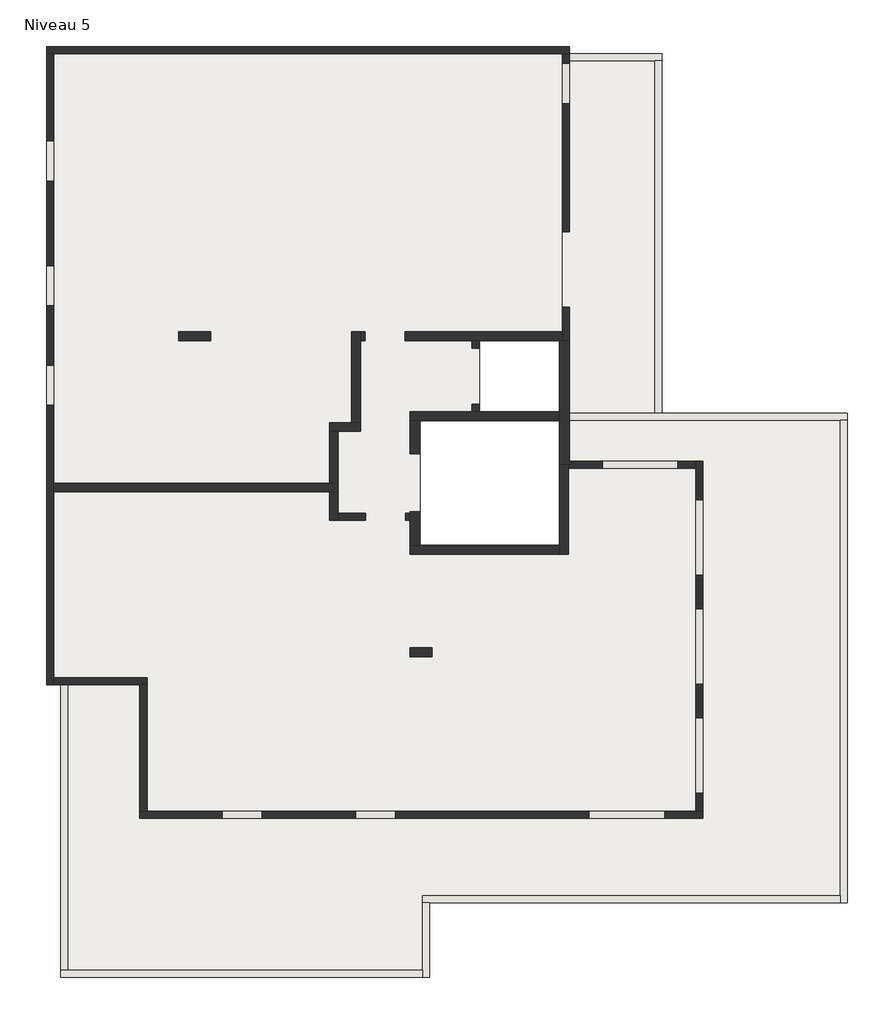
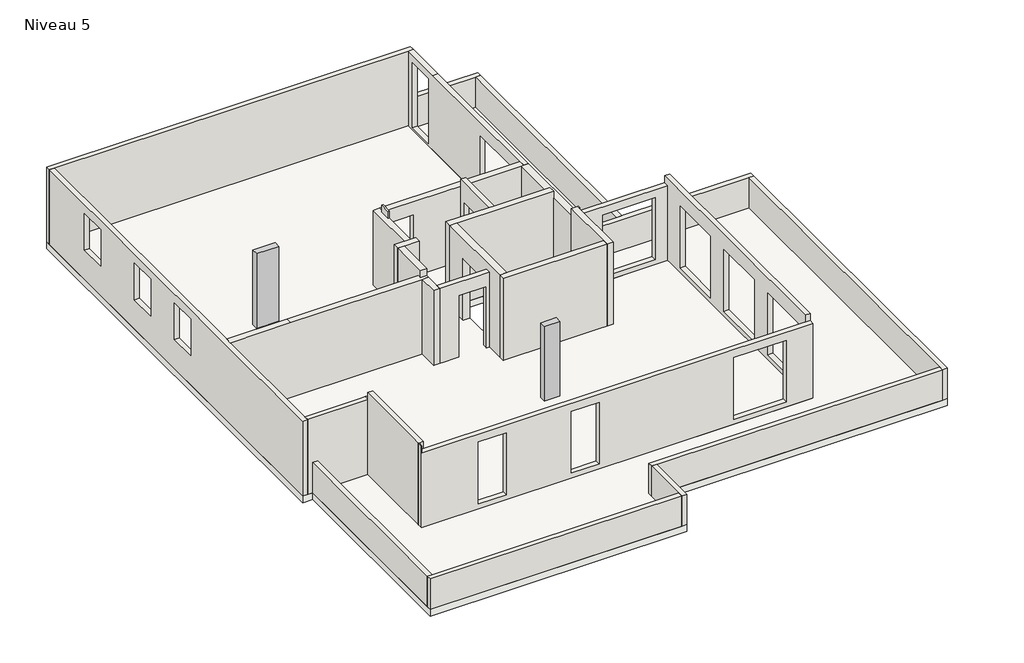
# One storey: 29 walls, 2 columns, 2 slabs.
"""IFC4 building model written with IfcOpenShell, lengths in millimetres."""

from ifc_helpers import new_model, si_unit, frame, origin, place, context, project, spatial, polyline, outline, extrude, faceted_brep, element, save

model = new_model("IFC4")

# Units and contexts
model_context = context("Model", 3, world=origin())
ifc_project = project(units=[si_unit("LENGTHUNIT", "METRE", prefix="MILLI")], contexts=[model_context])

# Site, building, storey
site = spatial("IfcSite", under=ifc_project)
building = spatial("IfcBuilding", under=site)
storey = spatial("IfcBuildingStorey", under=building, Name="Niveau 5", Elevation=14680.0)

# Columns
placement = place(None, origin())
element("IfcColumn", 1, ObjectType="Béton - Rectangulaire - Poteau : 200 x 500", at=placement, inside=storey, context=model_context, shape_type="SweptSolid", body=[
    extrude(outline(polyline([(-2147.6920341, -4024.0968949), (-2647.6920341, -4024.0968949), (-2647.6920341, -3824.0968949), (-2147.6920341, -3824.0968949), (-2147.6920341, -4024.0968949)])), frame((0.0, 0.0, 14680.0), z_axis=(0.0, 0.0, 1.0), x_axis=(1.0, 0.0, 0.0)), (0.0, 0.0, 1.0), 2560.0),
])
element("IfcColumn", 2, ObjectType="Béton - Rectangulaire - Poteau : 200 x 720", at=placement, inside=storey, context=model_context, shape_type="SweptSolid", body=[
    extrude(outline(polyline([(-7127.691895, 3075.9031051), (-7847.691895, 3075.9031051), (-7847.691895, 3275.9031051), (-7127.691895, 3275.9031051), (-7127.691895, 3075.9031051)])), frame((0.0, 0.0, 14680.0), z_axis=(0.0, 0.0, 1.0), x_axis=(1.0, 0.0, 0.0)), (0.0, 0.0, 1.0), 2560.0),
])

# Slabs
element("IfcSlab", 3, ObjectType="Plancher Béton 230 mm", at=placement, inside=storey, context=model_context, shape_type="Brep", body=[
    faceted_brep([(712.3079659, 205.9031051, 14450.0), (3942.3079659, 205.9031051, 14450.0), (3942.3079659, -7654.0969166, 14450.0), (-8717.691895, -7654.0969166, 14450.0), (-8717.691895, -4654.0969166, 14450.0), (-10497.6920341, -4654.0969166, 14450.0), (-10817.691895, -4654.0969166, 14450.0), (-10817.691895, 9685.9030834, 14450.0), (942.3079659, 9685.9030834, 14450.0), (942.3079659, 9525.9030834, 14450.0), (782.3079659, 9525.9030834, 14450.0), (782.3079659, 3175.9031051, 14450.0), (712.3079659, 3175.9031051, 14450.0), (712.3079659, 3075.9031051, 14450.0), (-1087.6920341, 3075.9031051, 14450.0), (-1087.6920341, 1475.9031051, 14450.0), (712.3079659, 1475.9031051, 14450.0), (712.3079659, 1275.9031051, 14450.0), (-2417.6920341, 1275.9031051, 14450.0), (-2417.6920341, -1524.0968949, 14450.0), (712.3079659, -1524.0968949, 14450.0), (3942.3079659, 205.9031051, 14680.0), (712.3079659, 205.9031051, 14680.0), (712.3079659, -1524.0968949, 14680.0), (-2417.6920341, -1524.0968949, 14680.0), (-2417.6920341, 1275.9031051, 14680.0), (712.3079659, 1275.9031051, 14680.0), (712.3079659, 1475.9031051, 14680.0), (-1087.6920341, 1475.9031051, 14680.0), (-1087.6920341, 3075.9031051, 14680.0), (712.3079659, 3075.9031051, 14680.0), (712.3079659, 3175.9031051, 14680.0), (782.3079659, 3175.9031051, 14680.0), (782.3079659, 9525.9030834, 14680.0), (942.3079659, 9525.9030834, 14680.0), (942.3079659, 9685.9030834, 14680.0), (-10817.691895, 9685.9030834, 14680.0), (-10817.691895, 9525.9030834, 14680.0), (-10817.691895, -4654.0969166, 14680.0), (-10657.691895, -4654.0969166, 14680.0), (-10497.6920341, -4654.0969166, 14680.0), (-8717.691895, -4654.0969166, 14680.0), (-8717.691895, -7494.0969166, 14680.0), (-8717.691895, -7654.0969166, 14680.0), (3942.3079659, -7654.0969166, 14680.0), (3942.3079659, -7494.0969166, 14680.0)], [[[0, 1, 2, 3, 4, 5, 6, 7, 8, 9, 10, 11, 12, 13, 14, 15, 16, 17, 18, 19, 20]], [[21, 22, 23, 24, 25, 26, 27, 28, 29, 30, 31, 32, 33, 34, 35, 36, 37, 38, 39, 40, 41, 42, 43, 44, 45]], [[8, 35, 34, 9]], [[0, 22, 21, 1]], [[2, 1, 21, 45, 44]], [[3, 2, 44, 43]], [[4, 3, 43, 42, 41]], [[4, 41, 40, 39, 38, 6, 5]], [[7, 6, 38, 37, 36]], [[8, 7, 36, 35]], [[29, 14, 13, 30]], [[14, 29, 28, 15]], [[15, 28, 27, 16]], [[20, 23, 22, 0]], [[25, 18, 17, 26]], [[18, 25, 24, 19]], [[23, 20, 19, 24]], [[17, 16, 27, 26]], [[12, 31, 30, 13]], [[31, 12, 11, 32]], [[32, 11, 10, 33]], [[33, 10, 9, 34]]]),
])
element("IfcSlab", 4, ObjectType="Plancher Béton 230 mm", at=placement, inside=storey, context=model_context, shape_type="Brep", body=[
    faceted_brep([(-8717.691895, -4654.0969166, 14450.0), (-8717.691895, -7654.0969166, 14450.0), (3942.3079659, -7654.0969166, 14450.0), (3942.3079659, 205.9031051, 14450.0), (712.3079659, 205.9031051, 14450.0), (712.3079659, 1275.9031051, 14450.0), (712.3079659, 1475.9031051, 14450.0), (712.3079659, 3075.9031051, 14450.0), (712.3079659, 3175.9031051, 14450.0), (782.3079659, 3175.9031051, 14450.0), (782.3079659, 9525.9030834, 14450.0), (942.3079659, 9525.9030834, 14450.0), (3022.3079659, 9525.9030834, 14450.0), (3022.3079659, 1445.9030834, 14450.0), (7192.3079659, 1445.9030834, 14450.0), (7192.3079659, -9554.0969166, 14450.0), (-2207.6920341, -9554.0969166, 14450.0), (-2207.6920341, -11234.0969166, 14450.0), (-10497.6920341, -11234.0969166, 14450.0), (-10497.6920341, -4654.0969166, 14450.0), (-8717.691895, -4654.0969166, 14680.0), (-10497.6920341, -4654.0969166, 14680.0), (-10497.6920341, -11074.0969166, 14680.0), (-10497.6920341, -11234.0969166, 14680.0), (-2367.6920341, -11234.0969166, 14680.0), (-2207.6920341, -11234.0969166, 14680.0), (-2207.6920341, -9554.0969166, 14680.0), (7032.3079659, -9554.0969166, 14680.0), (7192.3079659, -9554.0969166, 14680.0), (7192.3079659, 1285.9030834, 14680.0), (7192.3079659, 1445.9030834, 14680.0), (3022.3079659, 1445.9030834, 14680.0), (3022.3079659, 9525.9030834, 14680.0), (942.3079659, 9525.9030834, 14680.0), (782.3079659, 9525.9030834, 14680.0), (782.3079659, 3175.9031051, 14680.0), (712.3079659, 3175.9031051, 14680.0), (712.3079659, 3075.9031051, 14680.0), (712.3079659, 1475.9031051, 14680.0), (712.3079659, 1275.9031051, 14680.0), (712.3079659, 205.9031051, 14680.0), (3942.3079659, 205.9031051, 14680.0), (3942.3079659, -7654.0969166, 14680.0), (-8717.691895, -7654.0969166, 14680.0)], [[[0, 1, 2, 3, 4, 5, 6, 7, 8, 9, 10, 11, 12, 13, 14, 15, 16, 17, 18, 19]], [[20, 21, 22, 23, 24, 25, 26, 27, 28, 29, 30, 31, 32, 33, 34, 35, 36, 37, 38, 39, 40, 41, 42, 43]], [[1, 0, 20, 43]], [[2, 1, 43, 42]], [[3, 2, 42, 41]], [[4, 3, 41, 40]], [[8, 7, 6, 5, 4, 40, 39, 38, 37, 36]], [[9, 8, 36, 35]], [[10, 9, 35, 34]], [[0, 19, 21, 20]], [[12, 11, 10, 34, 33, 32]], [[13, 12, 32, 31]], [[14, 13, 31, 30]], [[15, 14, 30, 29, 28]], [[16, 15, 28, 27, 26]], [[17, 16, 26, 25]], [[18, 17, 25, 24, 23]], [[19, 18, 23, 22, 21]]]),
])

# Walls
element("IfcWall", 5, ObjectType="Béton 160 mm", at=placement, inside=storey, context=model_context, shape_type="Brep", body=[
    faceted_brep([(-10817.691895, 9525.9030834, 14680.0), (-10657.691895, 9525.9030834, 14680.0), (782.3079659, 9525.9030834, 14680.0), (942.3079659, 9525.9030834, 14680.0), (942.3079659, 9525.9030834, 17240.0), (782.3079659, 9525.9030834, 17240.0), (-10657.691895, 9525.9030834, 17240.0), (-10817.691895, 9525.9030834, 17240.0), (-10817.691895, 9685.9030834, 14680.0), (-10817.691895, 9685.9030834, 17240.0), (942.3079659, 9685.9030834, 17240.0), (942.3079659, 9685.9030834, 14680.0)], [[[0, 1, 2, 3, 4, 5, 6, 7]], [[8, 9, 10, 11]], [[3, 2, 1, 0, 8, 11]], [[4, 3, 11, 10]], [[0, 7, 9, 8]], [[7, 6, 5, 4, 10, 9]]]),
])
element("IfcWall", 6, ObjectType="Béton 160 mm", at=placement, inside=storey, context=model_context, shape_type="Brep", body=[
    faceted_brep([(782.3079659, 9525.9030834, 14680.0), (782.3079659, 5525.9030834, 14680.0), (782.3079659, 5525.9030834, 16790.0), (782.3079659, 3825.9030834, 16790.0), (782.3079659, 3825.9030834, 14680.0), (782.3079659, 3275.9031051, 14680.0), (782.3079659, 3075.9031051, 14680.0), (782.3079659, 3075.9031051, 17240.0), (782.3079659, 3275.9031051, 17240.0), (782.3079659, 8145.9030834, 17240.0), (782.3079659, 9525.9030834, 17240.0), (782.3079659, 8405.9030834, 16970.0), (782.3079659, 8405.9030834, 14750.0), (782.3079659, 9305.9030834, 14750.0), (782.3079659, 9305.9030834, 16970.0), (942.3079659, 5525.9030834, 16790.0), (942.3079659, 5525.9030834, 14680.0), (942.3079659, 9365.9030834, 14680.0), (942.3079659, 9525.9030834, 14680.0), (942.3079659, 9525.9030834, 15720.0), (942.3079659, 9525.9030834, 17240.0), (942.3079659, 8145.9030834, 17240.0), (942.3079659, 3275.9031051, 17240.0), (942.3079659, 3075.9031051, 17240.0), (942.3079659, 3075.9031051, 14680.0), (942.3079659, 3825.9030834, 14680.0), (942.3079659, 3825.9030834, 16790.0), (942.3079659, 8405.9030834, 16970.0), (942.3079659, 9305.9030834, 16970.0), (942.3079659, 9305.9030834, 14750.0), (942.3079659, 8405.9030834, 14750.0)], [[[0, 1, 2, 3, 4, 5, 6, 7, 8, 9, 10], [11, 12, 13, 14]], [[15, 16, 17, 18, 19, 20, 21, 22, 23, 24, 25, 26], [27, 28, 29, 30]], [[25, 24, 6, 5, 4]], [[18, 17, 16, 1, 0]], [[7, 6, 24, 23]], [[10, 20, 19, 18, 0]], [[4, 3, 26, 25]], [[2, 1, 16, 15]], [[3, 2, 15, 26]], [[12, 11, 27, 30]], [[13, 12, 30, 29]], [[14, 13, 29, 28]], [[11, 14, 28, 27]], [[9, 8, 7, 23, 22, 21]], [[10, 9, 21, 20]]]),
])
element("IfcWall", 7, ObjectType="Béton 160 mm", at=placement, inside=storey, context=model_context, shape_type="Brep", body=[
    faceted_brep([(-10817.691895, 9525.9030834, 14680.0), (-10817.691895, -4654.0969166, 14680.0), (-10817.691895, -4654.0969166, 17240.0), (-10817.691895, 9525.9030834, 17240.0), (-10817.691895, 7563.9030834, 16930.0), (-10817.691895, 6663.9030834, 16930.0), (-10817.691895, 6663.9030834, 15680.0), (-10817.691895, 7563.9030834, 15680.0), (-10817.691895, 3863.9030834, 16930.0), (-10817.691895, 3863.9030834, 15680.0), (-10817.691895, 4763.9030834, 15680.0), (-10817.691895, 4763.9030834, 16930.0), (-10817.691895, 2524.9030834, 16930.0), (-10817.691895, 1624.9030834, 16930.0), (-10817.691895, 1624.9030834, 15680.0), (-10817.691895, 2524.9030834, 15680.0), (-10657.691895, 9525.9030834, 14680.0), (-10657.691895, 9525.9030834, 17240.0), (-10657.691895, -124.0968949, 17240.0), (-10657.691895, -324.0968949, 17240.0), (-10657.691895, -4494.0969166, 17240.0), (-10657.691895, -4654.0969166, 17240.0), (-10657.691895, -4654.0969166, 14680.0), (-10657.691895, -4494.0969166, 14680.0), (-10657.691895, -324.0968949, 14680.0), (-10657.691895, -124.0968949, 14680.0), (-10657.691895, 7563.9030834, 16930.0), (-10657.691895, 7563.9030834, 15680.0), (-10657.691895, 6663.9030834, 15680.0), (-10657.691895, 6663.9030834, 16930.0), (-10657.691895, 3863.9030834, 16930.0), (-10657.691895, 4763.9030834, 16930.0), (-10657.691895, 4763.9030834, 15680.0), (-10657.691895, 3863.9030834, 15680.0), (-10657.691895, 2524.9030834, 16930.0), (-10657.691895, 2524.9030834, 15680.0), (-10657.691895, 1624.9030834, 15680.0), (-10657.691895, 1624.9030834, 16930.0)], [[[0, 1, 2, 3], [4, 5, 6, 7], [8, 9, 10, 11], [12, 13, 14, 15]], [[16, 17, 18, 19, 20, 21, 22, 23, 24, 25], [26, 27, 28, 29], [30, 31, 32, 33], [34, 35, 36, 37]], [[1, 0, 16, 25, 24, 23, 22]], [[0, 3, 17, 16]], [[2, 1, 22, 21]], [[27, 26, 4, 7]], [[28, 27, 7, 6]], [[29, 28, 6, 5]], [[26, 29, 5, 4]], [[9, 8, 30, 33]], [[10, 9, 33, 32]], [[11, 10, 32, 31]], [[8, 11, 31, 30]], [[35, 34, 12, 15]], [[36, 35, 15, 14]], [[37, 36, 14, 13]], [[34, 37, 13, 12]], [[3, 2, 21, 20, 19, 18, 17]]]),
])
element("IfcWall", 8, ObjectType="Béton 200 mm", at=placement, inside=storey, context=model_context, shape_type="Brep", body=[
    faceted_brep([(-10657.691895, -324.0968949, 14680.0), (-4457.691895, -324.0968949, 14680.0), (-4257.691895, -324.0968949, 14680.0), (-4257.691895, -324.0968949, 17240.0), (-4457.691895, -324.0968949, 17240.0), (-8697.6920341, -324.0968949, 17240.0), (-10657.691895, -324.0968949, 17240.0), (-10657.691895, -124.0968949, 14680.0), (-10657.691895, -124.0968949, 17240.0), (-8697.6920341, -124.0968949, 17240.0), (-4460.0848034, -124.0968949, 17240.0), (-4457.691895, -124.0968949, 17240.0), (-4257.691895, -124.0968949, 17240.0), (-4257.691895, -124.0968949, 14680.0), (-4457.691895, -124.0968949, 14680.0), (-4257.691895, -224.0968949, 17240.0)], [[[0, 1, 2, 3, 4, 5, 6]], [[7, 8, 9, 10, 11, 12, 13, 14]], [[2, 1, 0, 7, 14, 13]], [[0, 6, 8, 7]], [[3, 2, 13, 12, 15]], [[5, 4, 3, 15, 12, 11, 10, 9]], [[6, 5, 9, 8]]]),
])
element("IfcWall", 9, ObjectType="Béton 200 mm", at=placement, inside=storey, context=model_context, shape_type="SweptSolid", body=[
    extrude(outline(polyline([(-124.0968949, 14680.0), (-124.0968949, 17240.0), (-224.0968949, 17240.0), (-224.0968949, 17480.0), (1035.9031051, 17480.0), (1035.9031051, 14680.0), (-124.0968949, 14680.0)])), frame((-4457.691895, 0.0, 0.0), z_axis=(1.0, 0.0, 0.0), x_axis=(0.0, 1.0, 0.0)), (0.0, 0.0, 1.0), 200.0),
])
element("IfcWall", 10, ObjectType="Béton 200 mm", at=placement, inside=storey, context=model_context, shape_type="Brep", body=[
    faceted_brep([(-4457.691895, 1035.9031051, 14680.0), (-4257.691895, 1035.9031051, 14680.0), (-3757.691895, 1035.9031051, 14680.0), (-3757.691895, 1035.9031051, 17480.0), (-4257.691895, 1035.9031051, 17480.0), (-4457.691895, 1035.9031051, 17480.0), (-4457.691895, 1235.9031051, 14680.0), (-4457.691895, 1235.9031051, 17480.0), (-3757.691895, 1235.9031051, 17480.0), (-3757.691895, 1235.9031051, 17240.0), (-3757.691895, 1235.9031051, 14680.0), (-3957.691895, 1235.9031051, 14680.0)], [[[0, 1, 2, 3, 4, 5]], [[6, 7, 8, 9, 10, 11]], [[2, 1, 0, 6, 11, 10]], [[5, 4, 3, 8, 7]], [[0, 5, 7, 6]], [[3, 2, 10, 9, 8]]]),
])
element("IfcWall", 11, ObjectType="Béton 200 mm", at=placement, inside=storey, context=model_context, shape_type="Brep", body=[
    faceted_brep([(-3757.691895, 1235.9031051, 14680.0), (-3757.691895, 3075.9031051, 14680.0), (-3757.691895, 3275.9031051, 14680.0), (-3757.691895, 3275.9031051, 17240.0), (-3757.691895, 3075.9030834, 17240.0), (-3757.691895, 3075.9030834, 17480.0), (-3757.691895, 2725.9030834, 17480.0), (-3757.691895, 2725.9030834, 17240.0), (-3757.691895, 1235.9031051, 17240.0), (-3957.691895, 3275.9031051, 14680.0), (-3957.691895, 1235.9031051, 14680.0), (-3957.691895, 1235.9031051, 17240.0), (-3957.691895, 3275.9031051, 17240.0), (-3807.6828669, 3075.9030834, 17480.0), (-3807.6828669, 2725.9030834, 17480.0), (-3807.6828669, 2725.9030834, 17240.0), (-3807.6828669, 3075.9030834, 17240.0)], [[[0, 1, 2, 3, 4, 5, 6, 7, 8]], [[9, 10, 11, 12]], [[2, 1, 0, 10, 9]], [[6, 5, 13, 14]], [[10, 0, 8, 11]], [[2, 9, 12, 3]], [[15, 16, 4, 3, 12, 11, 8, 7]], [[16, 13, 5, 4]], [[16, 15, 14, 13]], [[14, 15, 7, 6]]]),
])
element("IfcWall", 12, ObjectType="Béton 200 mm", at=placement, inside=storey, context=model_context, shape_type="Brep", body=[
    faceted_brep([(-4457.691895, -324.0968949, 14680.0), (-4457.691895, -964.0968949, 14680.0), (-4457.691895, -964.0968949, 17240.0), (-4457.691895, -324.0968949, 17240.0), (-4257.691895, -964.0968949, 14680.0), (-4257.691895, -804.0968949, 14680.0), (-4257.691895, -324.0968949, 14680.0), (-4257.691895, -324.0968949, 17240.0), (-4257.691895, -804.0968949, 17240.0), (-4257.691895, -964.0968949, 17240.0)], [[[0, 1, 2, 3]], [[4, 5, 6, 7, 8, 9]], [[1, 0, 6, 5, 4]], [[1, 4, 9, 2]], [[6, 0, 3, 7]], [[3, 2, 9, 8, 7]]]),
])
element("IfcWall", 13, ObjectType="Béton 200 mm", at=placement, inside=storey, context=model_context, shape_type="Brep", body=[
    faceted_brep([(-2757.691895, 3075.9031051, 16790.0), (-2757.691895, 3075.9031051, 14680.0), (-1247.6920341, 3075.9031051, 14680.0), (-1087.6920341, 3075.9031051, 14680.0), (712.3079659, 3075.9031051, 14680.0), (782.3079659, 3075.9031051, 14680.0), (782.3079659, 3075.9031051, 17240.0), (712.3079659, 3075.9031051, 17240.0), (-1087.6920341, 3075.9031051, 17240.0), (-3507.6828669, 3075.9031051, 17240.0), (-3757.691895, 3075.9031051, 17240.0), (-3757.691895, 3075.9031051, 14680.0), (-3657.691895, 3075.9031051, 14680.0), (-3657.691895, 3075.9031051, 16790.0), (-2757.691895, 3275.9031051, 14680.0), (-2757.691895, 3275.9031051, 16790.0), (-3657.691895, 3275.9031051, 16790.0), (-3657.691895, 3275.9031051, 14680.0), (-3757.691895, 3275.9031051, 14680.0), (-3757.691895, 3275.9031051, 17240.0), (782.3079659, 3275.9031051, 17240.0), (782.3079659, 3275.9031051, 14680.0)], [[[0, 1, 2, 3, 4, 5, 6, 7, 8, 9, 10, 11, 12, 13]], [[14, 15, 16, 17, 18, 19, 20, 21]], [[11, 18, 17, 12]], [[21, 5, 4, 3, 2, 1, 14]], [[18, 11, 10, 19]], [[1, 0, 15, 14]], [[13, 12, 17, 16]], [[0, 13, 16, 15]], [[5, 21, 20, 6]], [[7, 6, 20, 19, 10, 9, 8]]]),
])
element("IfcWall", 14, ObjectType="Béton 230 mm", at=placement, inside=storey, context=model_context, shape_type="Brep", body=[
    faceted_brep([(712.3079659, 3075.9031051, 14680.0), (712.3079659, 1475.9031051, 14680.0), (712.3079659, 1275.9031051, 14680.0), (712.3079659, 285.9031051, 14680.0), (712.3079659, 285.9031051, 17240.0), (712.3079659, 1275.9030834, 17240.0), (712.3079659, 1475.9030834, 17240.0), (712.3079659, 3075.9031051, 17240.0), (942.3079659, 285.9031051, 14680.0), (942.3079659, 365.9031051, 14680.0), (942.3079659, 1285.9030834, 14680.0), (942.3079659, 1445.9030834, 14680.0), (942.3079659, 3075.9031051, 14680.0), (942.3079659, 3075.9031051, 17240.0), (942.3079659, 365.9031051, 17240.0), (942.3079659, 285.9031051, 17240.0), (782.3079659, 3075.9031051, 14680.0), (912.3079659, 285.9031051, 14680.0), (782.3079659, 3075.9031051, 17240.0)], [[[0, 1, 2, 3, 4, 5, 6, 7]], [[8, 9, 10, 11, 12, 13, 14, 15]], [[3, 2, 1, 0, 16, 12, 11, 10, 9, 8, 17]], [[3, 17, 8, 15, 4]], [[12, 16, 0, 7, 18, 13]], [[5, 4, 15, 14, 13, 18, 7, 6]]]),
])
element("IfcWall", 15, ObjectType="Béton 200 mm", at=placement, inside=storey, context=model_context, shape_type="Brep", body=[
    faceted_brep([(712.3079659, 285.9031051, 14680.0), (712.3079659, -1524.0968949, 14680.0), (712.3079659, -1724.0968949, 14680.0), (712.3079659, -1724.0968949, 17480.0), (712.3079659, -1524.0968949, 17480.0), (712.3079659, 285.9031051, 17480.0), (912.3079659, 285.9031051, 14680.0), (912.3079659, 285.9031051, 17480.0), (912.3079659, 205.9031051, 17480.0), (912.3079659, -1724.0968949, 17480.0), (912.3079659, -1724.0968949, 17240.0), (912.3079659, -1724.0968949, 17080.0), (912.3079659, -1724.0968949, 14680.0), (912.3079659, 205.9031051, 14680.0)], [[[0, 1, 2, 3, 4, 5]], [[6, 7, 8, 9, 10, 11, 12, 13]], [[2, 1, 0, 6, 13, 12]], [[5, 4, 3, 9, 8, 7]], [[0, 5, 7, 6]], [[3, 2, 12, 11, 10, 9]]]),
])
element("IfcWall", 16, ObjectType="Béton 200 mm", at=placement, inside=storey, context=model_context, shape_type="Brep", body=[
    faceted_brep([(712.3079659, 1475.9031051, 14680.0), (-1087.6920341, 1475.9031051, 14680.0), (-1247.6920341, 1475.9031051, 14680.0), (-2647.6920341, 1475.9031051, 14680.0), (-2647.6920341, 1475.9031051, 17480.0), (-1247.6920341, 1475.9031051, 17480.0), (-1087.6920341, 1475.9031051, 17480.0), (712.3079659, 1475.9031051, 17480.0), (712.3079659, 1275.9031051, 14680.0), (712.3079659, 1275.9031051, 17480.0), (-2417.6920341, 1275.9031051, 17480.0), (-2647.6920341, 1275.9031051, 17480.0), (-2647.6920341, 1275.9031051, 14680.0), (-2417.6920341, 1275.9031051, 14680.0)], [[[0, 1, 2, 3, 4, 5, 6, 7]], [[8, 9, 10, 11, 12, 13]], [[3, 2, 1, 0, 8, 13, 12]], [[7, 6, 5, 4, 11, 10, 9]], [[0, 7, 9, 8]], [[4, 3, 12, 11]]]),
])
element("IfcWall", 17, ObjectType="Béton 200 mm", at=placement, inside=storey, context=model_context, shape_type="Brep", body=[
    faceted_brep([(-2647.6920341, -1724.0968949, 14680.0), (712.3079659, -1724.0968949, 14680.0), (712.3079659, -1724.0968949, 17480.0), (-2647.6920341, -1724.0968949, 17480.0), (-2647.6920341, -1524.0968949, 14680.0), (-2647.6920341, -1524.0968949, 17480.0), (-2417.6920341, -1524.0968949, 17480.0), (712.3079659, -1524.0968949, 17480.0), (712.3079659, -1524.0968949, 14680.0), (-2417.6920341, -1524.0968949, 14680.0)], [[[0, 1, 2, 3]], [[4, 5, 6, 7, 8, 9]], [[1, 0, 4, 9, 8]], [[3, 2, 7, 6, 5]], [[2, 1, 8, 7]], [[0, 3, 5, 4]]]),
])
element("IfcWall", 18, ObjectType="Béton 230 mm", at=placement, inside=storey, context=model_context, shape_type="Brep", body=[
    faceted_brep([(-2647.6920341, 1275.9031051, 14680.0), (-2647.6920341, 535.9031051, 14680.0), (-2647.6920341, 535.9031051, 16790.0), (-2647.6920341, -764.0968949, 16790.0), (-2647.6920341, -764.0968949, 14680.0), (-2647.6920341, -804.0968949, 14680.0), (-2647.6920341, -964.0968949, 14680.0), (-2647.6920341, -1524.0968949, 14680.0), (-2647.6920341, -1524.0968949, 17480.0), (-2647.6920341, 1275.9031051, 17480.0), (-2417.6920341, 535.9031051, 16790.0), (-2417.6920341, 535.9031051, 14680.0), (-2417.6920341, 1275.9031051, 14680.0), (-2417.6920341, 1275.9031051, 17480.0), (-2417.6920341, -1524.0968949, 17480.0), (-2417.6920341, -1524.0968949, 14680.0), (-2417.6920341, -764.0968949, 14680.0), (-2417.6920341, -764.0968949, 16790.0)], [[[0, 1, 2, 3, 4, 5, 6, 7, 8, 9]], [[10, 11, 12, 13, 14, 15, 16, 17]], [[16, 15, 7, 6, 5, 4]], [[12, 11, 1, 0]], [[9, 8, 14, 13]], [[0, 9, 13, 12]], [[8, 7, 15, 14]], [[4, 3, 17, 16]], [[2, 1, 11, 10]], [[3, 2, 10, 17]]]),
])
element("IfcWall", 19, ObjectType="Béton 160 mm", at=placement, inside=storey, context=model_context, shape_type="Brep", body=[
    faceted_brep([(3942.3079659, -7494.0969166, 14680.0), (3782.3079659, -7494.0969166, 14680.0), (-8557.691895, -7494.0969166, 14680.0), (-8717.691895, -7494.0969166, 14680.0), (-8717.691895, -7494.0969166, 17480.0), (-8697.6920341, -7494.0969166, 17480.0), (-8697.6920341, -7494.0969166, 17240.0), (3782.3079659, -7494.0969166, 17240.0), (3942.3079659, -7494.0969166, 17240.0), (-6867.691895, -7494.0969166, 16960.0), (-6867.691895, -7494.0969166, 14850.0), (-5967.691895, -7494.0969166, 14850.0), (-5967.691895, -7494.0969166, 16960.0), (-3867.691895, -7494.0969166, 16960.0), (-3867.691895, -7494.0969166, 14850.0), (-2967.691895, -7494.0969166, 14850.0), (-2967.691895, -7494.0969166, 16960.0), (1382.308105, -7494.0969166, 16960.0), (1382.308105, -7494.0969166, 14850.0), (3082.308105, -7494.0969166, 14850.0), (3082.308105, -7494.0969166, 16960.0), (-8717.691895, -7654.0969166, 14680.0), (3942.3079659, -7654.0969166, 14680.0), (3942.3079659, -7654.0969166, 17240.0), (942.3079659, -7654.0969166, 17240.0), (-8697.6920341, -7654.0969166, 17240.0), (-8697.6920341, -7654.0969166, 17480.0), (-8717.691895, -7654.0969166, 17480.0), (-6867.691895, -7654.0969166, 14850.0), (-6867.691895, -7654.0969166, 16960.0), (-5967.691895, -7654.0969166, 16960.0), (-5967.691895, -7654.0969166, 14850.0), (-3867.691895, -7654.0969166, 14850.0), (-3867.691895, -7654.0969166, 16960.0), (-2967.691895, -7654.0969166, 16960.0), (-2967.691895, -7654.0969166, 14850.0), (1382.308105, -7654.0969166, 14850.0), (1382.308105, -7654.0969166, 16960.0), (3082.308105, -7654.0969166, 16960.0), (3082.308105, -7654.0969166, 14850.0)], [[[0, 1, 2, 3, 4, 5, 6, 7, 8], [9, 10, 11, 12], [13, 14, 15, 16], [17, 18, 19, 20]], [[21, 22, 23, 24, 25, 26, 27], [28, 29, 30, 31], [32, 33, 34, 35], [36, 37, 38, 39]], [[3, 2, 1, 0, 22, 21]], [[4, 27, 26, 5]], [[22, 0, 8, 23]], [[4, 3, 21, 27]], [[10, 9, 29, 28]], [[11, 10, 28, 31]], [[12, 11, 31, 30]], [[9, 12, 30, 29]], [[14, 13, 33, 32]], [[15, 14, 32, 35]], [[16, 15, 35, 34]], [[13, 16, 34, 33]], [[18, 17, 37, 36]], [[19, 18, 36, 39]], [[20, 19, 39, 38]], [[17, 20, 38, 37]], [[6, 25, 24, 23, 8, 7]], [[25, 6, 5, 26]]]),
])
element("IfcWall", 20, ObjectType="Béton 160 mm", at=placement, inside=storey, context=model_context, shape_type="Brep", body=[
    faceted_brep([(3942.3079659, -7494.0969166, 14680.0), (3942.3079659, 365.9031051, 14680.0), (3942.3079659, 365.9031051, 17480.0), (3942.3079659, -7494.0969166, 17480.0), (3942.3079659, -7494.0969166, 17240.0), (3942.3079659, -5394.0969166, 16960.0), (3942.3079659, -5394.0969166, 14850.0), (3942.3079659, -7094.0969166, 14850.0), (3942.3079659, -7094.0969166, 16960.0), (3942.3079659, -4644.0969166, 16960.0), (3942.3079659, -2944.0969166, 16960.0), (3942.3079659, -2944.0969166, 14850.0), (3942.3079659, -4644.0969166, 14850.0), (3942.3079659, -494.0969166, 16960.0), (3942.3079659, -494.0969166, 14850.0), (3942.3079659, -2194.0969166, 14850.0), (3942.3079659, -2194.0969166, 16960.0), (3782.3079659, -7494.0969166, 14680.0), (3782.3079659, -7494.0969166, 17480.0), (3782.3079659, 365.9031051, 17480.0), (3782.3079659, 365.9031051, 17240.0), (3782.3079659, 365.9031051, 14680.0), (3782.3079659, 205.9031051, 14680.0), (3782.3079659, -5394.0969166, 16960.0), (3782.3079659, -7094.0969166, 16960.0), (3782.3079659, -7094.0969166, 14850.0), (3782.3079659, -5394.0969166, 14850.0), (3782.3079659, -4644.0969166, 16960.0), (3782.3079659, -4644.0969166, 14850.0), (3782.3079659, -2944.0969166, 14850.0), (3782.3079659, -2944.0969166, 16960.0), (3782.3079659, -494.0969166, 16960.0), (3782.3079659, -2194.0969166, 16960.0), (3782.3079659, -2194.0969166, 14850.0), (3782.3079659, -494.0969166, 14850.0)], [[[0, 1, 2, 3, 4], [5, 6, 7, 8], [9, 10, 11, 12], [13, 14, 15, 16]], [[17, 18, 19, 20, 21, 22], [23, 24, 25, 26], [27, 28, 29, 30], [31, 32, 33, 34]], [[1, 0, 17, 22, 21]], [[2, 1, 21, 20, 19]], [[3, 2, 19, 18]], [[0, 4, 3, 18, 17]], [[6, 5, 23, 26]], [[7, 6, 26, 25]], [[8, 7, 25, 24]], [[5, 8, 24, 23]], [[28, 27, 9, 12]], [[29, 28, 12, 11]], [[30, 29, 11, 10]], [[27, 30, 10, 9]], [[14, 13, 31, 34]], [[15, 14, 34, 33]], [[16, 15, 33, 32]], [[13, 16, 32, 31]]]),
])
element("IfcWall", 21, ObjectType="Béton 160 mm", at=placement, inside=storey, context=model_context, shape_type="Brep", body=[
    faceted_brep([(912.3079659, 205.9031051, 14680.0), (3782.3079659, 205.9031051, 14680.0), (3782.3079659, 205.9031051, 17240.0), (942.3079659, 205.9031051, 17240.0), (942.3079659, 205.9031051, 17480.0), (912.3079659, 205.9031051, 17480.0), (3382.3079659, 205.9031051, 16960.0), (3382.3079659, 205.9031051, 14850.0), (1682.3079659, 205.9031051, 14850.0), (1682.3079659, 205.9031051, 16960.0), (3782.3079659, 365.9031051, 14680.0), (942.3079659, 365.9031051, 14680.0), (942.3079659, 365.9031051, 17240.0), (3782.3079659, 365.9031051, 17240.0), (3382.3079659, 365.9031051, 14850.0), (3382.3079659, 365.9031051, 16960.0), (1682.3079659, 365.9031051, 16960.0), (1682.3079659, 365.9031051, 14850.0), (912.3079659, 285.9031051, 14680.0), (942.3079659, 285.9031051, 14680.0), (942.3079659, 285.9031051, 17480.0), (912.3079659, 285.9031051, 17480.0), (942.3079659, 285.9031051, 17240.0)], [[[0, 1, 2, 3, 4, 5], [6, 7, 8, 9]], [[10, 11, 12, 13], [14, 15, 16, 17]], [[1, 0, 18, 19, 11, 10]], [[20, 21, 5, 4]], [[1, 10, 13, 2]], [[0, 5, 21, 18]], [[21, 20, 22, 19, 18]], [[11, 19, 22, 12]], [[7, 6, 15, 14]], [[8, 7, 14, 17]], [[9, 8, 17, 16]], [[6, 9, 16, 15]], [[22, 3, 2, 13, 12]], [[3, 22, 20, 4]]]),
])
element("IfcWall", 22, ObjectType="Béton 160 mm", at=placement, inside=storey, context=model_context, shape_type="Brep", body=[
    faceted_brep([(-10657.691895, -4654.0969166, 14680.0), (-10497.6920341, -4654.0969166, 14680.0), (-10337.6920341, -4654.0969166, 14680.0), (-8717.691895, -4654.0969166, 14680.0), (-8557.691895, -4654.0969166, 14680.0), (-8557.691895, -4654.0969166, 17240.0), (-8697.6920341, -4654.0969166, 17240.0), (-10657.691895, -4654.0969166, 17240.0), (-10657.691895, -4494.0969166, 14680.0), (-10657.691895, -4494.0969166, 17240.0), (-8817.6920341, -4494.0969166, 17240.0), (-8697.6920341, -4494.0969166, 17240.0), (-8557.691895, -4494.0969166, 17240.0), (-8557.691895, -4494.0969166, 17080.0), (-8557.691895, -4494.0969166, 14680.0), (-8557.691895, -4554.0969166, 17240.0)], [[[0, 1, 2, 3, 4, 5, 6, 7]], [[8, 9, 10, 11, 12, 13, 14]], [[4, 3, 2, 1, 0, 8, 14]], [[0, 7, 9, 8]], [[5, 4, 14, 13, 12, 15]], [[6, 5, 15, 12, 11]], [[7, 6, 11, 10, 9]]]),
])
element("IfcWall", 23, ObjectType="Béton 160 mm", at=placement, inside=storey, context=model_context, shape_type="Brep", body=[
    faceted_brep([(-8717.691895, -4654.0969166, 14680.0), (-8717.691895, -7494.0969166, 14680.0), (-8717.691895, -7494.0969166, 17480.0), (-8717.691895, -4654.0969166, 17480.0), (-8557.691895, -4654.0969166, 14680.0), (-8557.691895, -4654.0969166, 17240.0), (-8557.691895, -4654.0969166, 17480.0), (-8557.691895, -7494.0969166, 17480.0), (-8557.691895, -7494.0969166, 14680.0), (-8697.6920341, -7494.0969166, 17480.0)], [[[0, 1, 2, 3]], [[4, 5, 6, 7, 8]], [[1, 0, 4, 8]], [[3, 2, 9, 7, 6]], [[0, 3, 6, 5, 4]], [[2, 1, 8, 7, 9]]]),
])
element("IfcWall", 24, ObjectType="Béton 160 mm", at=placement, inside=storey, context=model_context, shape_type="SweptSolid", body=[
    extrude(outline(polyline([(14680.0, -3647.6920341), (16790.0, -3647.6920341), (16790.0, -2747.6920341), (14680.0, -2747.6920341), (14680.0, -2647.6920341), (17240.0, -2647.6920341), (17240.0, -4257.691895), (14680.0, -4257.691895), (14680.0, -3647.6920341)])), frame((0.0, -964.0968949, 0.0), z_axis=(0.0, 1.0, 0.0), x_axis=(0.0, 0.0, 1.0)), (0.0, 0.0, 1.0), 160.0),
])
element("IfcWall", 25, ObjectType="Béton 160 mm", at=placement, inside=storey, context=model_context, shape_type="SweptSolid", body=[
    extrude(outline(polyline([(1645.9031051, 16790.0), (1645.9031051, 14680.0), (1475.9031051, 14680.0), (1475.9031051, 17480.0), (3075.9031051, 17480.0), (3075.9031051, 14680.0), (2905.9031051, 14680.0), (2905.9031051, 16790.0), (1645.9031051, 16790.0)])), frame((-1247.6920341, 0.0, 0.0), z_axis=(1.0, 0.0, 0.0), x_axis=(0.0, 1.0, 0.0)), (0.0, 0.0, 1.0), 160.0),
])
element("IfcWall", 26, ObjectType="Béton 160 mm", at=placement, inside=storey, context=model_context, shape_type="Brep", body=[
    faceted_brep([(942.3079659, 9365.9030834, 14680.0), (2862.3079659, 9365.9030834, 14680.0), (3022.3079659, 9365.9030834, 14680.0), (3022.3079659, 9365.9030834, 15720.0), (2862.3079659, 9365.9030834, 15720.0), (942.3079659, 9365.9030834, 15720.0), (942.3079659, 9525.9030834, 14680.0), (942.3079659, 9525.9030834, 15720.0), (3022.3079659, 9525.9030834, 15720.0), (3022.3079659, 9525.9030834, 14680.0)], [[[0, 1, 2, 3, 4, 5]], [[6, 7, 8, 9]], [[2, 1, 0, 6, 9]], [[5, 4, 3, 8, 7]], [[0, 5, 7, 6]], [[3, 2, 9, 8]]]),
])
element("IfcWall", 27, ObjectType="Béton 160 mm", at=placement, inside=storey, context=model_context, shape_type="SweptSolid", body=[
    extrude(outline(polyline([(2862.3079659, 1445.9030834), (2862.3079659, 9365.9030834), (3022.3079659, 9365.9030834), (3022.3079659, 1445.9030834), (2862.3079659, 1445.9030834)])), frame((0.0, 0.0, 14680.0), z_axis=(0.0, 0.0, 1.0), x_axis=(1.0, 0.0, 0.0)), (0.0, 0.0, 1.0), 1040.0),
])
element("IfcWall", 28, ObjectType="Béton 160 mm", at=placement, inside=storey, context=model_context, shape_type="Brep", body=[
    faceted_brep([(942.3079659, 1285.9030834, 14680.0), (7032.3079659, 1285.9030834, 14680.0), (7192.3079659, 1285.9030834, 14680.0), (7192.3079659, 1285.9030834, 15720.0), (7032.3079659, 1285.9030834, 15720.0), (942.3079659, 1285.9030834, 15720.0), (942.3079659, 1445.9030834, 14680.0), (942.3079659, 1445.9030834, 15720.0), (2862.3079659, 1445.9030834, 15720.0), (3022.3079659, 1445.9030834, 15720.0), (7192.3079659, 1445.9030834, 15720.0), (7192.3079659, 1445.9030834, 14680.0), (3022.3079659, 1445.9030834, 14680.0), (2862.3079659, 1445.9030834, 14680.0)], [[[0, 1, 2, 3, 4, 5]], [[6, 7, 8, 9, 10, 11, 12, 13]], [[2, 1, 0, 6, 13, 12, 11]], [[5, 4, 3, 10, 9, 8, 7]], [[3, 2, 11, 10]], [[0, 5, 7, 6]]]),
])
element("IfcWall", 29, ObjectType="Béton 160 mm", at=placement, inside=storey, context=model_context, shape_type="Brep", body=[
    faceted_brep([(7032.3079659, 1285.9030834, 14680.0), (7032.3079659, -9394.0969166, 14680.0), (7032.3079659, -9554.0969166, 14680.0), (7032.3079659, -9554.0969166, 15720.0), (7032.3079659, -9394.0969166, 15720.0), (7032.3079659, 1285.9030834, 15720.0), (7192.3079659, 1285.9030834, 14680.0), (7192.3079659, 1285.9030834, 15720.0), (7192.3079659, -9554.0969166, 15720.0), (7192.3079659, -9554.0969166, 14680.0)], [[[0, 1, 2, 3, 4, 5]], [[6, 7, 8, 9]], [[2, 1, 0, 6, 9]], [[5, 4, 3, 8, 7]], [[0, 5, 7, 6]], [[3, 2, 9, 8]]]),
])
element("IfcWall", 30, ObjectType="Béton 160 mm", at=placement, inside=storey, context=model_context, shape_type="Brep", body=[
    faceted_brep([(7032.3079659, -9394.0969166, 14680.0), (-2367.6920341, -9394.0969166, 14680.0), (-2367.6920341, -9394.0969166, 15720.0), (7032.3079659, -9394.0969166, 15720.0), (7032.3079659, -9554.0969166, 14680.0), (7032.3079659, -9554.0969166, 15720.0), (-2207.6920341, -9554.0969166, 15720.0), (-2367.6920341, -9554.0969166, 15720.0), (-2367.6920341, -9554.0969166, 14680.0), (-2207.6920341, -9554.0969166, 14680.0)], [[[0, 1, 2, 3]], [[4, 5, 6, 7, 8, 9]], [[1, 0, 4, 9, 8]], [[3, 2, 7, 6, 5]], [[0, 3, 5, 4]], [[2, 1, 8, 7]]]),
])
element("IfcWall", 31, ObjectType="Béton 160 mm", at=placement, inside=storey, context=model_context, shape_type="Brep", body=[
    faceted_brep([(-2367.6920341, -9554.0969166, 14680.0), (-2367.6920341, -11074.0969166, 14680.0), (-2367.6920341, -11234.0969166, 14680.0), (-2367.6920341, -11234.0969166, 15720.0), (-2367.6920341, -11074.0969166, 15720.0), (-2367.6920341, -9554.0969166, 15720.0), (-2207.6920341, -9554.0969166, 14680.0), (-2207.6920341, -9554.0969166, 15720.0), (-2207.6920341, -11234.0969166, 15720.0), (-2207.6920341, -11234.0969166, 14680.0)], [[[0, 1, 2, 3, 4, 5]], [[6, 7, 8, 9]], [[2, 1, 0, 6, 9]], [[5, 4, 3, 8, 7]], [[0, 5, 7, 6]], [[3, 2, 9, 8]]]),
])
element("IfcWall", 32, ObjectType="Béton 160 mm", at=placement, inside=storey, context=model_context, shape_type="Brep", body=[
    faceted_brep([(-2367.6920341, -11074.0969166, 14680.0), (-10337.6920341, -11074.0969166, 14680.0), (-10497.6920341, -11074.0969166, 14680.0), (-10497.6920341, -11074.0969166, 15720.0), (-10337.6920341, -11074.0969166, 15720.0), (-2367.6920341, -11074.0969166, 15720.0), (-2367.6920341, -11234.0969166, 14680.0), (-2367.6920341, -11234.0969166, 15720.0), (-10497.6920341, -11234.0969166, 15720.0), (-10497.6920341, -11234.0969166, 14680.0)], [[[0, 1, 2, 3, 4, 5]], [[6, 7, 8, 9]], [[2, 1, 0, 6, 9]], [[5, 4, 3, 8, 7]], [[0, 5, 7, 6]], [[3, 2, 9, 8]]]),
])
element("IfcWall", 33, ObjectType="Béton 160 mm", at=placement, inside=storey, context=model_context, shape_type="SweptSolid", body=[
    extrude(outline(polyline([(-10337.6920341, -4654.0969166), (-10337.6920341, -11074.0969166), (-10497.6920341, -11074.0969166), (-10497.6920341, -4654.0969166), (-10337.6920341, -4654.0969166)])), frame((0.0, 0.0, 14680.0), z_axis=(0.0, 0.0, 1.0), x_axis=(1.0, 0.0, 0.0)), (0.0, 0.0, 1.0), 1040.0),
])

save(model, "model.ifc")
